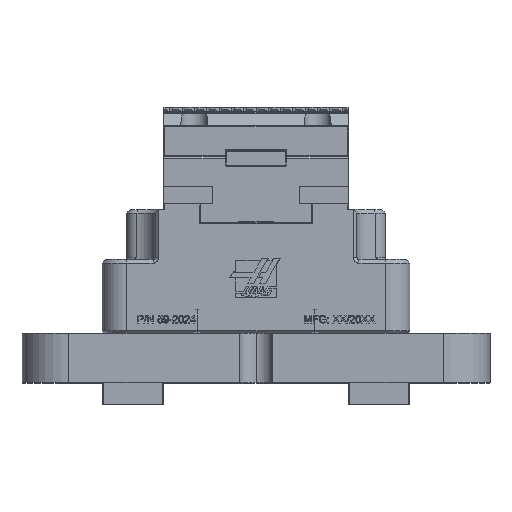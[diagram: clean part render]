
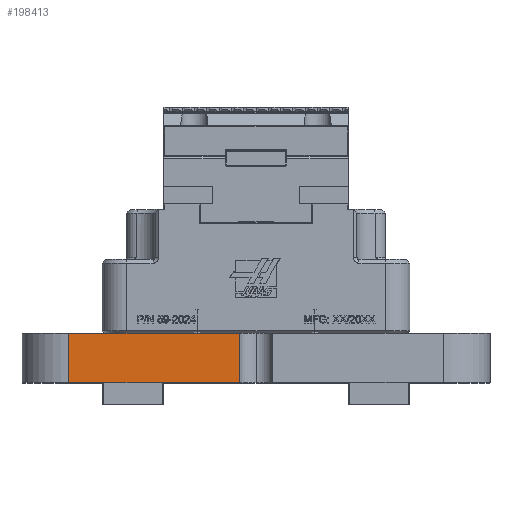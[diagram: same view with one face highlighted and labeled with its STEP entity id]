
A CAD part, top view. The second image highlights one B-rep face of the part: STEP entity #198413.
In plain terms, the highlighted planar face has unit normal (0, 0, 1).
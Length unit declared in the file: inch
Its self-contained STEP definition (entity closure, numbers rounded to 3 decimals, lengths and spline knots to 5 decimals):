
#2902 = CARTESIAN_POINT ( 'NONE',  ( -2.99213, 0.7874, 3.74016 ) ) ;
#3815 = VECTOR ( 'NONE', #164794, 39.37008 ) ;
#9499 = EDGE_CURVE ( 'NONE', #147811, #13981, #111324, .T. ) ;
#13981 = VERTEX_POINT ( 'NONE', #235024 ) ;
#19036 = CARTESIAN_POINT ( 'NONE',  ( -2.99213, 0.7874, 3.74016 ) ) ;
#19537 = CARTESIAN_POINT ( 'NONE',  ( -0.2655, 0., 3.74016 ) ) ;
#31946 = VECTOR ( 'NONE', #93426, 39.37008 ) ;
#33266 = EDGE_LOOP ( 'NONE', ( #236155, #106364, #130029, #233734 ) ) ;
#33668 = DIRECTION ( 'NONE',  ( 1., 0., 0. ) ) ;
#34467 = VERTEX_POINT ( 'NONE', #98033 ) ;
#46670 = PLANE ( 'NONE',  #226896 ) ;
#53712 = DIRECTION ( 'NONE',  ( 0., -1., 0. ) ) ;
#54923 = LINE ( 'NONE', #2902, #181232 ) ;
#86597 = CARTESIAN_POINT ( 'NONE',  ( -0.2655, 0.7874, 3.74016 ) ) ;
#87781 = EDGE_CURVE ( 'NONE', #154437, #147811, #123271, .T. ) ;
#93426 = DIRECTION ( 'NONE',  ( 1., 0., 0. ) ) ;
#98033 = CARTESIAN_POINT ( 'NONE',  ( -2.99213, 0., 3.74016 ) ) ;
#103560 = FACE_OUTER_BOUND ( 'NONE', #33266, .T. ) ;
#106364 = ORIENTED_EDGE ( 'NONE', *, *, #9499, .F. ) ;
#111324 = LINE ( 'NONE', #185288, #3815 ) ;
#112591 = EDGE_CURVE ( 'NONE', #34467, #13981, #203743, .T. ) ;
#123271 = LINE ( 'NONE', #197264, #129118 ) ;
#129118 = VECTOR ( 'NONE', #33668, 39.37008 ) ;
#130029 = ORIENTED_EDGE ( 'NONE', *, *, #87781, .F. ) ;
#147811 = VERTEX_POINT ( 'NONE', #181519 ) ;
#154437 = VERTEX_POINT ( 'NONE', #19036 ) ;
#164794 = DIRECTION ( 'NONE',  ( 0., -1., 0. ) ) ;
#176360 = DIRECTION ( 'NONE',  ( -1., 0., 0. ) ) ;
#178731 = DIRECTION ( 'NONE',  ( 0., 0., -1. ) ) ;
#181232 = VECTOR ( 'NONE', #53712, 39.37008 ) ;
#181519 = CARTESIAN_POINT ( 'NONE',  ( -0.2655, 0.7874, 3.74016 ) ) ;
#185288 = CARTESIAN_POINT ( 'NONE',  ( -0.2655, 0.7874, 3.74016 ) ) ;
#197264 = CARTESIAN_POINT ( 'NONE',  ( -0.2655, 0.7874, 3.74016 ) ) ;
#198413 = ADVANCED_FACE ( 'NONE', ( #103560 ), #46670, .F. ) ;
#203743 = LINE ( 'NONE', #19537, #31946 ) ;
#222368 = EDGE_CURVE ( 'NONE', #154437, #34467, #54923, .T. ) ;
#226896 = AXIS2_PLACEMENT_3D ( 'NONE', #86597, #178731, #176360 ) ;
#233734 = ORIENTED_EDGE ( 'NONE', *, *, #222368, .T. ) ;
#235024 = CARTESIAN_POINT ( 'NONE',  ( -0.2655, 0., 3.74016 ) ) ;
#236155 = ORIENTED_EDGE ( 'NONE', *, *, #112591, .T. ) ;
